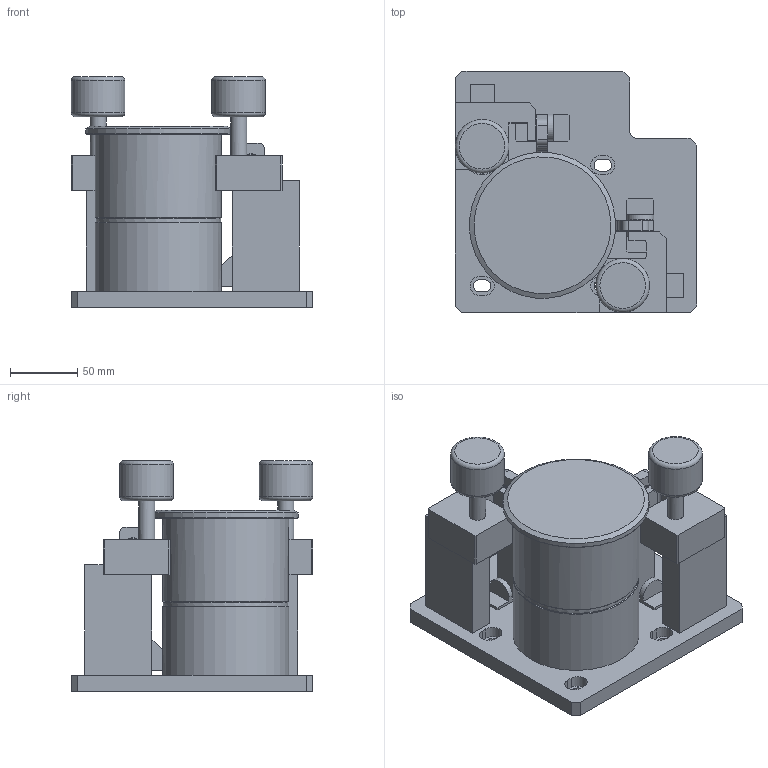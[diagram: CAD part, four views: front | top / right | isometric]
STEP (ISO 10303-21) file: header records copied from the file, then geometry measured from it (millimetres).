
FILE_DESCRIPTION(/* description */ (''),/* implementation_level */ '2;1');
FILE_NAME(/* name */ 'A:\업무자료\03. 개발\홍보자료제작\홈페이지(BKCI)\20181008 이전이력\첨부자료\STEP 파일\EFAU-15\EF2A\EF2A-15-0-SUS-S DOWN.stp',/* time_stamp */ '2018-11-30T13:33:01+09:00',/* author */ ('idt-l'),/* organization */ (''),/* preprocessor_version */ 'ST-DEVELOPER v16.13',/* originating_system */ 'Autodesk Inventor 2018',/* authorisation */ '');
FILE_SCHEMA (('AUTOMOTIVE_DESIGN { 1 0 10303 214 3 1 1 }'));
Length unit declared in the file: inch
Products named in the file (1): EF2A-15-0-SUS-S DOWN
Bounding box: 180 x 180 x 172 mm (x, y, z)
Volume: 1602947.6 mm3; surface area: 180361.9 mm2
Topology: 1 solids, 3 shells, 189 faces, 504 edges, 334 vertices
Faces by surface type: plane 128, cylinder 47, cone 8, torus 6
Full cylindrical faces by diameter (mm): 4.134 x2, 5 x2, 10.3 x2, 12 x3, 40 x2, 93 x1, 94 x2, 94.2 x1, 109 x1
Entity records: 5904 total; most frequent: CARTESIAN_POINT 968, DIRECTION 952, ORIENTED_EDGE 918, EDGE_CURVE 459, LINE 346, VECTOR 346, VERTEX_POINT 319, AXIS2_PLACEMENT_3D 303
